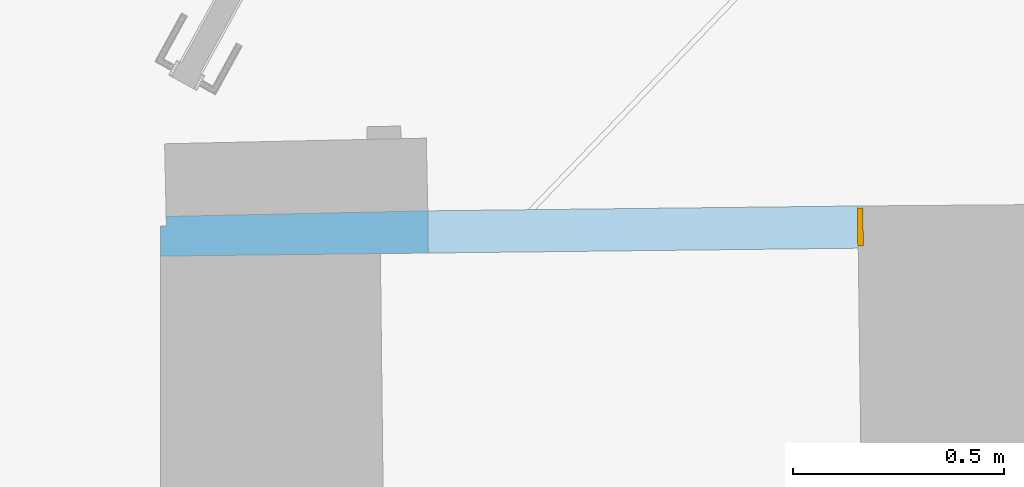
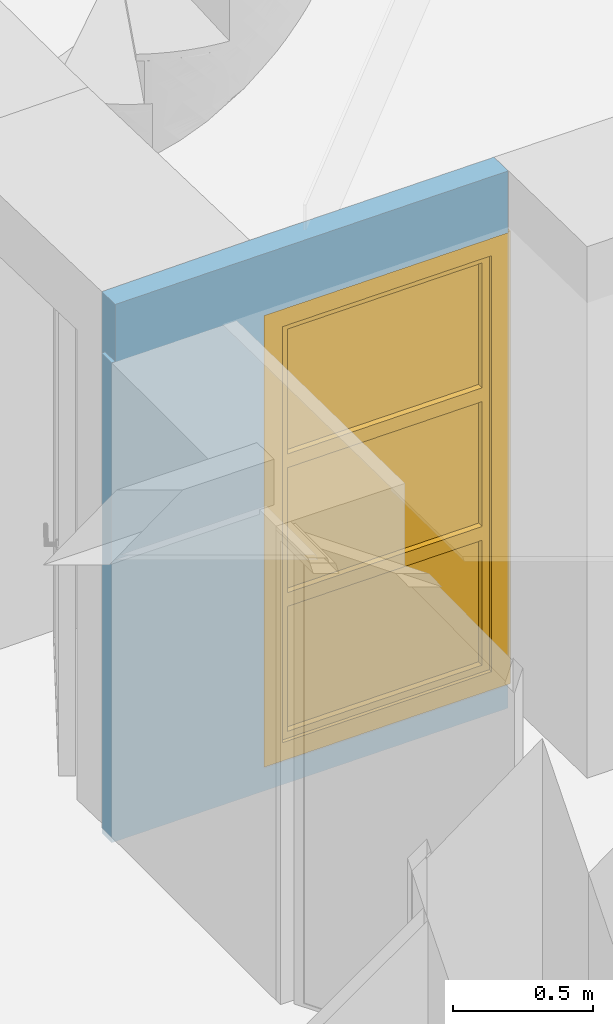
# One storey, part 54 of 72: 1 window, 1 opening, plus 1 element that does not belong to this part.
"""IFC2X3 building model written with IfcOpenShell, lengths in centimetres."""

import ifcopenshell
import ifcopenshell.guid

model = None  # the IFC model being written
_history = None  # IfcOwnerHistory: only IFC2X3 demands one
_inside = {}  # id of a spatial element -> (the spatial element, [elements in it])
_under = {}  # id of a project, library or spatial element -> (it, [spatial elements below it])
_declared = {}  # id of a project -> (the project, [libraries it declares])
_typed = {}  # id of a type object -> (the type object, [elements of that type])
_made_of = {}  # id of a material, layer set ... -> (it, [elements and type objects made of it])


def new_model(schema):
    """Start an empty IFC model of exactly this schema.

    Asked for "IFC4X3", IfcOpenShell would pick the latest addendum, in which some entities
    have other attributes; the version numbers below select the first issue.
    IFC2X3 requires an IfcOwnerHistory on every rooted entity: one is made here for all.
    """
    global model, _history
    if schema == "IFC4X3":
        model = ifcopenshell.file(schema_version=(4, 3, 0, 0))
    else:
        model = ifcopenshell.file(schema=schema)
    _inside.clear()
    _under.clear()
    _declared.clear()
    _typed.clear()
    _made_of.clear()
    _history = None
    if model.schema == "IFC2X3":
        org = make("IfcOrganization", Name="unknown")
        user = make(
            "IfcPersonAndOrganization",
            ThePerson=make("IfcPerson", FamilyName="unknown"),
            TheOrganization=org,
        )
        app = make(
            "IfcApplication",
            ApplicationDeveloper=org,
            Version="unknown",
            ApplicationFullName="unknown",
            ApplicationIdentifier="unknown",
        )
        _history = make(
            "IfcOwnerHistory",
            OwningUser=user,
            OwningApplication=app,
            ChangeAction="ADDED",
            CreationDate=0,
        )
    return model


def make(cls, **values):
    """One entity of the class cls with the attributes given. An attribute that is None is left unset."""
    return model.create_entity(
        cls, **{name: value for name, value in values.items() if value is not None}
    )


def entity(cls, *values):
    """Any entity or typed value of the class cls, its attributes in the order of the schema. None: left unset."""
    e = model.create_entity(cls)
    for i, value in enumerate(values):
        if value is not None:
            e[i] = value
    return e


def rooted(cls, **values):
    """An entity with a GlobalId (a new one), such as an element, a storey or a relation."""
    return make(cls, GlobalId=ifcopenshell.guid.new(), OwnerHistory=_history, **values)


def si_unit(unit_type, name, prefix=None):
    """IfcSIUnit, for example si_unit("LENGTHUNIT", "METRE", prefix="MILLI")."""
    return make("IfcSIUnit", UnitType=unit_type, Prefix=prefix, Name=name)


def converted_unit(unit_type, name, factor, base, dimensions=None, offset=None):
    """IfcConversionBasedUnit, such as the inch: factor (a typed value) times the base unit."""
    return make(
        "IfcConversionBasedUnit"
        if offset is None
        else "IfcConversionBasedUnitWithOffset",
        ConversionOffset=offset,
        Dimensions=None
        if dimensions is None
        else entity("IfcDimensionalExponents", *dimensions),
        UnitType=unit_type,
        Name=name,
        ConversionFactor=make(
            "IfcMeasureWithUnit", ValueComponent=factor, UnitComponent=base
        ),
    )


def assignment(units):
    """IfcUnitAssignment: the units of a project."""
    return None if units is None else make("IfcUnitAssignment", Units=units)


def point(xyz):
    """IfcCartesianPoint."""
    return None if xyz is None else make("IfcCartesianPoint", Coordinates=xyz)


def direction(xyz):
    """IfcDirection."""
    return None if xyz is None else make("IfcDirection", DirectionRatios=xyz)


def frame(location, z_axis=None, x_axis=None):
    """IfcAxis2Placement3D, a coordinate frame: its origin and axes. An axis left out is left unset."""
    return make(
        "IfcAxis2Placement3D",
        Location=point(location),
        Axis=direction(z_axis),
        RefDirection=direction(x_axis),
    )


def origin():
    """The frame at (0, 0, 0) with its axes left unset."""
    return frame((0.0, 0.0, 0.0))


def origin_with_axes():
    """The frame at (0, 0, 0) with the z axis (0, 0, 1) and the x axis (1, 0, 0) written out."""
    return frame((0.0, 0.0, 0.0), z_axis=(0.0, 0.0, 1.0), x_axis=(1.0, 0.0, 0.0))


def place(relative_to, where):
    """IfcLocalPlacement: puts the frame where relative to a parent placement (None: the world)."""
    return make(
        "IfcLocalPlacement", PlacementRelTo=relative_to, RelativePlacement=where
    )


def context(
    kind, dimensions, precision=None, world=None, true_north=None, identifier=None
):
    """IfcGeometricRepresentationContext, for example the 3D "Model" context."""
    return make(
        "IfcGeometricRepresentationContext",
        ContextIdentifier=identifier,
        ContextType=kind,
        CoordinateSpaceDimension=dimensions,
        Precision=precision,
        WorldCoordinateSystem=world,
        TrueNorth=true_north,
    )


def subcontext(parent, identifier, kind, view, scale=None):
    """IfcGeometricRepresentationSubContext, for example "Body" below "Model"."""
    return make(
        "IfcGeometricRepresentationSubContext",
        ContextIdentifier=identifier,
        ContextType=kind,
        ParentContext=parent,
        TargetScale=scale,
        TargetView=view,
    )


def project(units=None, contexts=None):
    """IfcProject with its units and contexts."""
    return rooted(
        "IfcProject",
        Name="project",
        RepresentationContexts=contexts,
        UnitsInContext=assignment(units),
    )


def spatial(cls, under=None, at=None, **own):
    """A site, building, storey or space (cls), placed at a placement, below another one or the project."""
    s = rooted(cls, ObjectPlacement=at, **own)
    if under is not None:
        _under.setdefault(under.id(), (under, []))[1].append(s)
    return s


def polyline(points):
    """IfcPolyline through the points."""
    return make("IfcPolyline", Points=[point(p) for p in points])


def outline(outer, holes=None, kind="AREA"):
    """IfcArbitraryClosedProfileDef: a profile drawn as a closed curve; with holes, ...WithVoids."""
    if holes is None:
        return make("IfcArbitraryClosedProfileDef", ProfileType=kind, OuterCurve=outer)
    return make(
        "IfcArbitraryProfileDefWithVoids",
        ProfileType=kind,
        OuterCurve=outer,
        InnerCurves=holes,
    )


def extrude(swept, where, along, depth):
    """IfcExtrudedAreaSolid: the profile swept, set in the frame where, extruded along a direction by depth."""
    return make(
        "IfcExtrudedAreaSolid",
        SweptArea=swept,
        Position=where,
        ExtrudedDirection=direction(along),
        Depth=depth,
    )


def clip(a, b, op="DIFFERENCE"):
    """IfcBooleanClippingResult: the solid a cut by the half space b."""
    return make(
        "IfcBooleanClippingResult", Operator=op, FirstOperand=a, SecondOperand=b
    )


def bounded_halfspace(plane, agree, where, boundary):
    """IfcPolygonalBoundedHalfSpace: a half space limited to a polygon's prism."""
    return make(
        "IfcPolygonalBoundedHalfSpace",
        BaseSurface=make("IfcPlane", Position=plane),
        AgreementFlag=agree,
        Position=where,
        PolygonalBoundary=boundary,
    )


def faces_of(points, faces, orient=None, outer=None):
    """IfcFace entities. A face is a list of loops; a loop is a list of indices into points, from 0.

    orient and outer hold one flag for each loop. By default every Orientation is true, the
    first loop of a face is its IfcFaceOuterBound and the others are IfcFaceBound.
    """
    made = []
    for i, loops in enumerate(faces):
        bounds = []
        for j, loop in enumerate(loops):
            is_outer = j == 0 if outer is None else outer[i][j]
            bounds.append(
                make(
                    "IfcFaceOuterBound" if is_outer else "IfcFaceBound",
                    Bound=make("IfcPolyLoop", Polygon=[points[k] for k in loop]),
                    Orientation=True if orient is None else orient[i][j],
                )
            )
        made.append(make("IfcFace", Bounds=bounds))
    return made


def faceted_brep(points, faces, orient=None, outer=None, voids=None):
    """IfcFacetedBrep: a solid bounded by flat faces; with voids (closed shells), ...WithVoids."""
    shared = [point(p) for p in points]
    hull = make("IfcClosedShell", CfsFaces=faces_of(shared, faces, orient, outer))
    if voids is None:
        return make("IfcFacetedBrep", Outer=hull)
    return make(
        "IfcFacetedBrepWithVoids",
        Outer=hull,
        Voids=[
            make(cls, CfsFaces=faces_of(shared, fs, o, b)) for cls, fs, o, b in voids
        ],
    )


def shape(context_of_items, identifier, shape_type, items):
    """IfcShapeRepresentation: the items that make up one representation, for example the "Body"."""
    return make(
        "IfcShapeRepresentation",
        ContextOfItems=context_of_items,
        RepresentationIdentifier=identifier,
        RepresentationType=shape_type,
        Items=items,
    )


def source(mapping_origin, context_of_items, identifier, shape_type, items):
    """IfcRepresentationMap: a shape defined once, which mapped items show again and again."""
    return make(
        "IfcRepresentationMap",
        MappingOrigin=mapping_origin,
        MappedRepresentation=shape(context_of_items, identifier, shape_type, items),
    )


def transform(
    local_origin,
    x_axis=None,
    y_axis=None,
    z_axis=None,
    scale=None,
    scale2=None,
    scale3=None,
    uniform=True,
):
    """IfcCartesianTransformationOperator3D, or its non-uniform kind. x_axis, y_axis, z_axis: its Axis1, 2, 3."""
    if uniform:
        return make(
            "IfcCartesianTransformationOperator3D",
            Axis1=direction(x_axis),
            Axis2=direction(y_axis),
            LocalOrigin=point(local_origin),
            Scale=scale,
            Axis3=direction(z_axis),
        )
    return make(
        "IfcCartesianTransformationOperator3DnonUniform",
        Axis1=direction(x_axis),
        Axis2=direction(y_axis),
        LocalOrigin=point(local_origin),
        Scale=scale,
        Axis3=direction(z_axis),
        Scale2=scale2,
        Scale3=scale3,
    )


def mapped(mapping_source, mapping_target):
    """IfcMappedItem: shows the shape of a source again, moved by a transform."""
    return make(
        "IfcMappedItem", MappingSource=mapping_source, MappingTarget=mapping_target
    )


def material(Name=None, Category=None):
    """IfcMaterial."""
    return make("IfcMaterial", Name=Name, Category=Category)


def material_list(materials):
    """IfcMaterialList."""
    return make("IfcMaterialList", Materials=materials)


def layer(
    of_material, thickness, ventilated=None, Name=None, Category=None, Priority=None
):
    """IfcMaterialLayer: one layer of a wall or slab, of a material (None: an air gap)."""
    return make(
        "IfcMaterialLayer",
        Material=of_material,
        LayerThickness=thickness,
        IsVentilated=ventilated,
        Name=Name,
        Category=Category,
        Priority=Priority,
    )


def layer_set(layers, Name=None):
    """IfcMaterialLayerSet."""
    return make("IfcMaterialLayerSet", MaterialLayers=layers, LayerSetName=Name)


def layer_usage(for_layer_set, set_direction, sense, offset, extent=None):
    """IfcMaterialLayerSetUsage: how a layer set lies in its element."""
    return make(
        "IfcMaterialLayerSetUsage",
        ForLayerSet=for_layer_set,
        LayerSetDirection=set_direction,
        DirectionSense=sense,
        OffsetFromReferenceLine=offset,
        ReferenceExtent=extent,
    )


def made_of(thing, what):
    """Note that an element or type object is made of a material, layer set ...; save() writes the relation."""
    if what is not None:
        _made_of.setdefault(what.id(), (what, []))[1].append(thing)
    return thing


def type_object(cls, material=None, **own):
    """A type object (cls), such as IfcWallType, which elements share."""
    return made_of(rooted(cls, **own), material)


def element(
    cls,
    number,
    at=None,
    inside=None,
    cuts=None,
    type_object=None,
    material=None,
    context=None,
    identifier="Body",
    shape_type=None,
    held_by="IfcProductDefinitionShape",
    body=None,
    shapes=None,
    **own,
):
    """One element of the class cls, such as IfcWall. Its Tag is "e" and its number.

    at: its placement. inside: the storey or other place that contains it. cuts: it is an
    opening in that element (IfcRelVoidsElement). A single representation is given by context,
    identifier, shape_type and body (its items); several are given by shapes. held_by: the class
    of the entity that holds the representations. save() writes the other relations.
    """
    e = rooted(cls, Tag="e%d" % number, ObjectPlacement=at, **own)
    if body is not None:
        shapes = [shape(context, identifier, shape_type, body)]
    if shapes is not None:
        e.Representation = make(held_by, Representations=shapes)
    if inside is not None:
        _inside.setdefault(inside.id(), (inside, []))[1].append(e)
    if cuts is not None:
        rooted(
            "IfcRelVoidsElement", RelatingBuildingElement=cuts, RelatedOpeningElement=e
        )
    if type_object is not None:
        _typed.setdefault(type_object.id(), (type_object, []))[1].append(e)
    return made_of(e, material)


def fill(opening, filler):
    """IfcRelFillsElement: the door or window that sits in an opening."""
    return rooted(
        "IfcRelFillsElement",
        RelatingOpeningElement=opening,
        RelatedBuildingElement=filler,
    )


def aggregate(whole, parts):
    """IfcRelAggregates: a whole, such as a stair, and the parts it consists of."""
    return rooted("IfcRelAggregates", RelatingObject=whole, RelatedObjects=parts)


def save(model, path):
    """Write the relations noted so far, then the file.

    IfcRelAggregates (storeys below a building ...), IfcRelContainedInSpatialStructure (elements
    in a storey), IfcRelDefinesByType, IfcRelAssociatesMaterial and IfcRelDeclares: one each for
    every whole, place, type object, material and project.
    """
    for whole, parts in _under.values():
        aggregate(whole, parts)
    for where, things in _inside.values():
        rooted(
            "IfcRelContainedInSpatialStructure",
            RelatedElements=things,
            RelatingStructure=where,
        )
    for kind, things in _typed.values():
        rooted("IfcRelDefinesByType", RelatedObjects=things, RelatingType=kind)
    for what, things in _made_of.values():
        rooted("IfcRelAssociatesMaterial", RelatedObjects=things, RelatingMaterial=what)
    for by, libraries in _declared.values():
        rooted("IfcRelDeclares", RelatingContext=by, RelatedDefinitions=libraries)
    model.write(path)


model = new_model("IFC2X3")

# Units and contexts
model_context = context("Model", 3, precision=0.0001, world=origin(), true_north=direction((0.225632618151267, 0.974212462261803, 0.0)))
body_context = subcontext(model_context, "Body", "Model", "MODEL_VIEW")
footprint_context = subcontext(model_context, "FootPrint", "Model", "MODEL_VIEW")
profile_context = subcontext(model_context, "Profile", "Model", "MODEL_VIEW")
ifc_project = project(units=[si_unit("LENGTHUNIT", "METRE", prefix="CENTI"), si_unit("AREAUNIT", "SQUARE_METRE", prefix="CENTI"), si_unit("VOLUMEUNIT", "CUBIC_METRE", prefix="CENTI"), converted_unit("PLANEANGLEUNIT", "DEGREE", entity("IfcRatioMeasure", 0.0174532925), si_unit("PLANEANGLEUNIT", "RADIAN"), dimensions=[0, 0, 0, 0, 0, 0, 0])], contexts=[model_context])

# Site, building, storey
site_placement = place(None, origin_with_axes())
site = spatial("IfcSite", under=ifc_project, at=site_placement, Name="Default Site", CompositionType="ELEMENT")
building_placement = place(site_placement, origin_with_axes())
building = spatial("IfcBuilding", under=site, at=building_placement, Name="Default Building", CompositionType="ELEMENT")
storey_placement = place(building_placement, frame((0.0, 0.0, 853.910374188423), z_axis=(0.0, 0.0, 1.0), x_axis=(1.0, 0.0, 0.0)))
storey = spatial("IfcBuildingStorey", under=building, at=storey_placement, Name="Niveau 2", CompositionType="ELEMENT", Elevation=853.910374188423)

# Wall, opening, window
ifc_material_1 = material(Name="<aucun>")
ifc_layer = layer(ifc_material_1, 10.0)
ifc_layer_set = layer_set([ifc_layer], Name="default")
ifc_layer_usage = layer_usage(ifc_layer_set, "AXIS2", "POSITIVE", -5.0)
wall_type = type_object("IfcWallType", Name="default 100", PredefinedType="NOTDEFINED", material=ifc_layer_set)
wall_placement = place(storey_placement, frame((285.889365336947, 223.276902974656, 1.4210854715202e-12), z_axis=(0.0, 0.0, 1.0), x_axis=(0.999935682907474, 0.0113415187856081, 0.0)))
wall = element("IfcWallStandardCase", 1, at=wall_placement, inside=storey, type_object=wall_type, material=ifc_layer_usage, Name="Enveloppe 151906", context=body_context, shape_type="Clipping", body=[
    clip(extrude(outline(polyline([(-52.07706725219, -5.00000000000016), (113.116214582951, -4.99999999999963), (113.116214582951, 5.00000000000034), (11.3568539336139, 5.00000000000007), (-50.639868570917, 4.36250592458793), (-50.6162602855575, 2.0665844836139), (-51.9967387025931, 2.08224221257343), (-52.07706725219, -5.00000000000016)])), origin_with_axes(), (0.0, 0.0, 1.0), 234.999999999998), bounded_halfspace(frame((-51.9966479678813, 2.0822588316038, 209.999999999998), z_axis=(0.0, 0.0, -1.0), x_axis=(-0.0113543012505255, -0.999935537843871, 0.0)), True, frame((-51.9966479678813, 2.0822588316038, 209.999999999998), z_axis=(0.0, 0.0, 1.0), x_axis=(1.0, 0.0, 0.0)), polyline([(-0.0804192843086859, -7.082258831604), (1.45305129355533, -7.08225883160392), (1.38038768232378, -0.0156743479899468), (0.0, 0.0), (-0.0804192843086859, -7.082258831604)]))),
])
opening_placement = place(wall_placement, frame((11.3568539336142, 2.8421709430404e-14, 9.99999999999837), z_axis=(0.0, 0.0, 1.0), x_axis=(1.0, 3.4035274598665e-15, 0.0)))
cartesian_point_1 = entity("IfcCartesianPoint", [-4.44089209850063e-14, 0.0, 198.0])
cartesian_point_2 = entity("IfcCartesianPoint", [103.100091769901, 4.99999999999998])
opening = element("IfcOpeningElement", 2, at=opening_placement, cuts=wall, Name="4294966439_11", ObjectType="Opening", shapes=[
    shape(body_context, "Body", "SweptSolid", [extrude(outline(polyline([(0.0, 198.0), (4.44089209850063e-14, 0.0), (103.100091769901, 0.0), (103.100091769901, 198.0), (0.0, 198.0)])), frame((0.0, 15.0, 0.0), z_axis=(0.0, -1.0, 0.0), x_axis=(1.0, 0.0, 0.0)), (0.0, 0.0, 1.0), 30.0)]),
    shape(profile_context, "Profile", "GeometricCurveSet", [entity("IfcGeometricCurveSet", [entity("IfcPolyline", [cartesian_point_1, entity("IfcCartesianPoint", [0.0, 0.0, 0.0]), entity("IfcCartesianPoint", [103.100091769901, -4.44089209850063e-14, 0.0]), entity("IfcCartesianPoint", [103.100091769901, -4.44089209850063e-14, 198.0]), cartesian_point_1])])]),
    shape(footprint_context, "FootPrint", "GeometricCurveSet", [entity("IfcGeometricCurveSet", [entity("IfcPolyline", [cartesian_point_2, entity("IfcCartesianPoint", [0.0, 4.99999999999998]), entity("IfcCartesianPoint", [-8.88178419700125e-14, -5.00000000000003]), entity("IfcCartesianPoint", [103.100091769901, -5.00000000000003]), cartesian_point_2])])]),
])
ifc_material_2 = material(Name="Transparent")
ifc_material_3 = material(Name="Gris lumière")
ifc_material_list = material_list([ifc_material_2, ifc_material_3])
window_style = type_object("IfcWindowStyle", Name="Fn 1 montant fixe 2 vitres ép 90", ConstructionType="NOTDEFINED", OperationType="TRIPLE_PANEL_HORIZONTAL", ParameterTakesPrecedence=True, Sizeable=False, material=ifc_material_list)
shared_shape = source(origin_with_axes(), body_context, "Body", "Brep", [
    faceted_brep([(-43.5500472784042, 189.999997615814, -4.50000017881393), (-43.5500472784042, 189.999997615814, 4.50000017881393), (-43.5500472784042, 7.99999982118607, 4.50000017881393), (-43.5500472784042, 7.99999982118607, -4.50000017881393), (-51.5500485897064, 198.000001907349, 4.50000017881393), (-51.5500485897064, -1.77635683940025e-13, 4.50000017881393), (-51.5500485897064, 198.000001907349, -4.50000017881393), (-51.5500485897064, -1.77635683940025e-13, -4.50000017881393), (43.5500472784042, 7.99999982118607, 4.50000017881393), (43.5500472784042, 7.99999982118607, -4.50000017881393), (51.5500485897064, -1.77635683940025e-13, 4.50000017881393), (51.5500485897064, -1.77635683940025e-13, -4.50000017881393), (43.5500472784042, 189.999997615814, 4.50000017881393), (43.5500472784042, 189.999997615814, -4.50000017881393), (51.5500485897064, 198.000001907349, 4.50000017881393), (51.5500485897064, 198.000001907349, -4.50000017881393)], [[[0, 1, 2, 3]], [[1, 4, 5, 2]], [[4, 6, 7, 5]], [[6, 0, 3, 7]], [[3, 2, 8, 9]], [[2, 5, 10, 8]], [[5, 7, 11, 10]], [[7, 3, 9, 11]], [[9, 8, 12, 13]], [[8, 10, 14, 12]], [[10, 11, 15, 14]], [[11, 9, 13, 15]], [[13, 12, 1, 0]], [[12, 14, 4, 1]], [[14, 15, 6, 4]], [[15, 13, 0, 6]]]),
    faceted_brep([(-40.5500471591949, 187.000000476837, -2.99999993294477), (-40.5500471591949, 187.000000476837, 2.99999993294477), (-40.5500471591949, 132.333338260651, 2.99999993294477), (-40.5500471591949, 132.333338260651, -2.99999993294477), (-43.5500472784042, 189.999997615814, 2.99999993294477), (-43.5500472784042, 129.333329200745, 2.99999993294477), (-43.5500472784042, 189.999997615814, -2.99999993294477), (-43.5500472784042, 129.333329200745, -2.99999993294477), (40.5500471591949, 132.333338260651, 2.99999993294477), (40.5500471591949, 132.333338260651, -2.99999993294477), (43.5500472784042, 129.333329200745, 2.99999993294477), (43.5500472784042, 129.333329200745, -2.99999993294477), (40.5500471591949, 187.000000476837, 2.99999993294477), (40.5500471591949, 187.000000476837, -2.99999993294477), (43.5500472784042, 189.999997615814, 2.99999993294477), (43.5500472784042, 189.999997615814, -2.99999993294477)], [[[0, 1, 2, 3]], [[1, 4, 5, 2]], [[4, 6, 7, 5]], [[6, 0, 3, 7]], [[3, 2, 8, 9]], [[2, 5, 10, 8]], [[5, 7, 11, 10]], [[7, 3, 9, 11]], [[9, 8, 12, 13]], [[8, 10, 14, 12]], [[10, 11, 15, 14]], [[11, 9, 13, 15]], [[13, 12, 1, 0]], [[12, 14, 4, 1]], [[14, 15, 6, 4]], [[15, 13, 0, 6]]]),
    faceted_brep([(40.5500471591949, 187.000000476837, -0.499999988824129), (40.5500471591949, 132.333338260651, -0.499999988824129), (-40.5500471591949, 132.333338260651, -0.499999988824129), (-40.5500471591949, 187.000000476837, -0.499999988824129), (-40.5500471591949, 187.000000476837, 0.499999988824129), (-40.5500471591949, 132.333338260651, 0.499999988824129), (40.5500471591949, 132.333338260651, 0.499999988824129), (40.5500471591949, 187.000000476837, 0.499999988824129)], [[[0, 1, 2, 3]], [[4, 5, 6, 7]], [[3, 2, 5, 4]], [[2, 1, 6, 5]], [[1, 0, 7, 6]], [[0, 3, 4, 7]]]),
    faceted_brep([(-40.5500471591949, 126.333332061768, -2.99999993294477), (-40.5500471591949, 126.333332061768, 2.99999993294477), (-40.5500471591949, 71.6666638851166, 2.99999993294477), (-40.5500471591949, 71.6666638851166, -2.99999993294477), (-43.5500472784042, 129.333329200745, 2.99999993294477), (-43.5500472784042, 68.6666667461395, 2.99999993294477), (-43.5500472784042, 129.333329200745, -2.99999993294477), (-43.5500472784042, 68.6666667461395, -2.99999993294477), (40.5500471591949, 71.6666638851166, 2.99999993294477), (40.5500471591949, 71.6666638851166, -2.99999993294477), (43.5500472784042, 68.6666667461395, 2.99999993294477), (43.5500472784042, 68.6666667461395, -2.99999993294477), (40.5500471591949, 126.333332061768, 2.99999993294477), (40.5500471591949, 126.333332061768, -2.99999993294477), (43.5500472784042, 129.333329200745, 2.99999993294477), (43.5500472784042, 129.333329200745, -2.99999993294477)], [[[0, 1, 2, 3]], [[1, 4, 5, 2]], [[4, 6, 7, 5]], [[6, 0, 3, 7]], [[3, 2, 8, 9]], [[2, 5, 10, 8]], [[5, 7, 11, 10]], [[7, 3, 9, 11]], [[9, 8, 12, 13]], [[8, 10, 14, 12]], [[10, 11, 15, 14]], [[11, 9, 13, 15]], [[13, 12, 1, 0]], [[12, 14, 4, 1]], [[14, 15, 6, 4]], [[15, 13, 0, 6]]]),
    faceted_brep([(40.5500471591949, 126.333332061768, -0.499999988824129), (40.5500471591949, 71.6666638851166, -0.499999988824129), (-40.5500471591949, 71.6666638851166, -0.499999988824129), (-40.5500471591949, 126.333332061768, -0.499999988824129), (-40.5500471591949, 126.333332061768, 0.499999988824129), (-40.5500471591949, 71.6666638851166, 0.499999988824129), (40.5500471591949, 71.6666638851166, 0.499999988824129), (40.5500471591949, 126.333332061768, 0.499999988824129)], [[[0, 1, 2, 3]], [[4, 5, 6, 7]], [[3, 2, 5, 4]], [[2, 1, 6, 5]], [[1, 0, 7, 6]], [[0, 3, 4, 7]]]),
    faceted_brep([(-40.5500471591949, 65.6666696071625, -2.99999993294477), (-40.5500471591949, 65.6666696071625, 2.99999993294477), (-40.5500471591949, 10.9999999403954, 2.99999993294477), (-40.5500471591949, 10.9999999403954, -2.99999993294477), (-43.5500472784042, 68.6666667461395, 2.99999993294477), (-43.5500472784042, 7.99999982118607, 2.99999993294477), (-43.5500472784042, 68.6666667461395, -2.99999993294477), (-43.5500472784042, 7.99999982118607, -2.99999993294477), (40.5500471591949, 10.9999999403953, 2.99999993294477), (40.5500471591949, 10.9999999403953, -2.99999993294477), (43.5500472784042, 7.99999982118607, 2.99999993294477), (43.5500472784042, 7.99999982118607, -2.99999993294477), (40.5500471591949, 65.6666696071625, 2.99999993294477), (40.5500471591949, 65.6666696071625, -2.99999993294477), (43.5500472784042, 68.6666667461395, 2.99999993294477), (43.5500472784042, 68.6666667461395, -2.99999993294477)], [[[0, 1, 2, 3]], [[1, 4, 5, 2]], [[4, 6, 7, 5]], [[6, 0, 3, 7]], [[3, 2, 8, 9]], [[2, 5, 10, 8]], [[5, 7, 11, 10]], [[7, 3, 9, 11]], [[9, 8, 12, 13]], [[8, 10, 14, 12]], [[10, 11, 15, 14]], [[11, 9, 13, 15]], [[13, 12, 1, 0]], [[12, 14, 4, 1]], [[14, 15, 6, 4]], [[15, 13, 0, 6]]]),
    faceted_brep([(40.5500471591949, 65.6666696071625, -0.499999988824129), (40.5500471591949, 10.9999999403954, -0.499999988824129), (-40.5500471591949, 10.9999999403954, -0.499999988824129), (-40.5500471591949, 65.6666696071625, -0.499999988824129), (-40.5500471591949, 65.6666696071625, 0.499999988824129), (-40.5500471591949, 10.9999999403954, 0.499999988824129), (40.5500471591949, 10.9999999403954, 0.499999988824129), (40.5500471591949, 65.6666696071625, 0.499999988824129)], [[[0, 1, 2, 3]], [[4, 5, 6, 7]], [[3, 2, 5, 4]], [[2, 1, 6, 5]], [[1, 0, 7, 6]], [[0, 3, 4, 7]]]),
])
window_placement = place(opening_placement, frame((0.0, -4.50000000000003, 0.0), z_axis=(0.0, 0.0, 1.0), x_axis=(1.0, 0.0, 0.0)))
window = element("IfcWindow", 3, at=window_placement, inside=storey, type_object=window_style, material=ifc_material_list, Name="Fenêtre 152114", OverallHeight=198.0, OverallWidth=103.100091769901, context=body_context, shape_type="MappedRepresentation", body=[
    mapped(shared_shape, transform((51.5500458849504, 4.49999999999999, 0.0), x_axis=(-1.0, 0.0, 0.0), y_axis=(0.0, 0.0, 1.0), z_axis=(0.0, 1.0, 0.0), scale=1.0, scale2=1.0, scale3=1.0, uniform=False)),
])
fill(opening, window)

save(model, "model.ifc")
